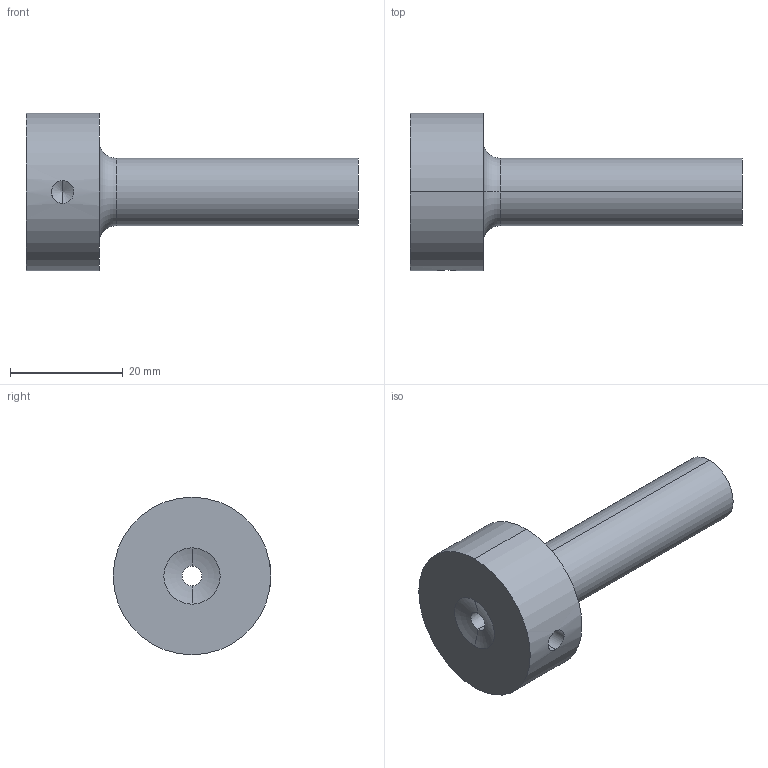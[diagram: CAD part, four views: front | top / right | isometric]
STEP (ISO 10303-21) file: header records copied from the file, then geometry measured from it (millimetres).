
FILE_DESCRIPTION (( 'STEP AP214' ), '1' );
FILE_NAME ('BR511 12X46X3,5X15,5.STEP', '2019-12-11T08:19:33', ( 'August' ), ( '' ), 'SwSTEP 2.0', 'SolidWorks 2018', '' );
FILE_SCHEMA (( 'AUTOMOTIVE_DESIGN' ));
Length unit declared in the file: millimetre
Products named in the file (1): BR511 12X46X3,5X15,5
Bounding box: 59 x 28 x 28 mm (x, y, z)
Volume: 12212 mm3; surface area: 4940.1 mm2
Topology: 1 solids, 1 shells, 17 faces, 36 edges, 21 vertices
Faces by surface type: cylinder 6, cone 4, torus 4, plane 3
Entity records: 538 total; most frequent: CARTESIAN_POINT 127, DIRECTION 90, ORIENTED_EDGE 68, AXIS2_PLACEMENT_3D 40, EDGE_CURVE 34, CIRCLE 22, VERTEX_POINT 21, EDGE_LOOP 21
